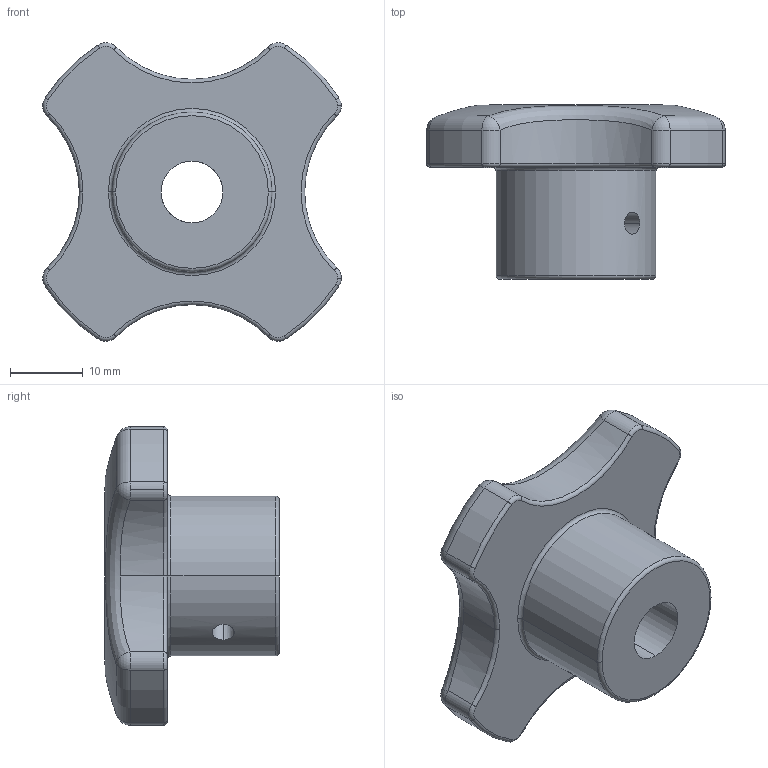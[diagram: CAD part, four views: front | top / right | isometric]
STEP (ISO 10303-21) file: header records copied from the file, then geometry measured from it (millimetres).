
FILE_DESCRIPTION (( 'STEP AP203' ), '1' );
FILE_NAME ('13.20003.STEP', '2017-10-03T16:32:29', ( 'Ricardo' ), ( '' ), 'SwSTEP 2.0', 'SolidWorks 2015', '' );
FILE_SCHEMA (( 'CONFIG_CONTROL_DESIGN' ));
Length unit declared in the file: millimetre
Products named in the file (1): 13.20003
Bounding box: 41.06 x 24 x 41.05 mm (x, y, z)
Volume: 13597.9 mm3; surface area: 5346.6 mm2
Topology: 1 solids, 1 shells, 76 faces, 168 edges, 96 vertices
Faces by surface type: cylinder 29, torus 29, sphere 8, plane 4, bspline 4, cone 2
Entity records: 2860 total; most frequent: CARTESIAN_POINT 1060, DIRECTION 413, ORIENTED_EDGE 336, AXIS2_PLACEMENT_3D 191, EDGE_CURVE 168, CIRCLE 118, VERTEX_POINT 96, EDGE_LOOP 84
